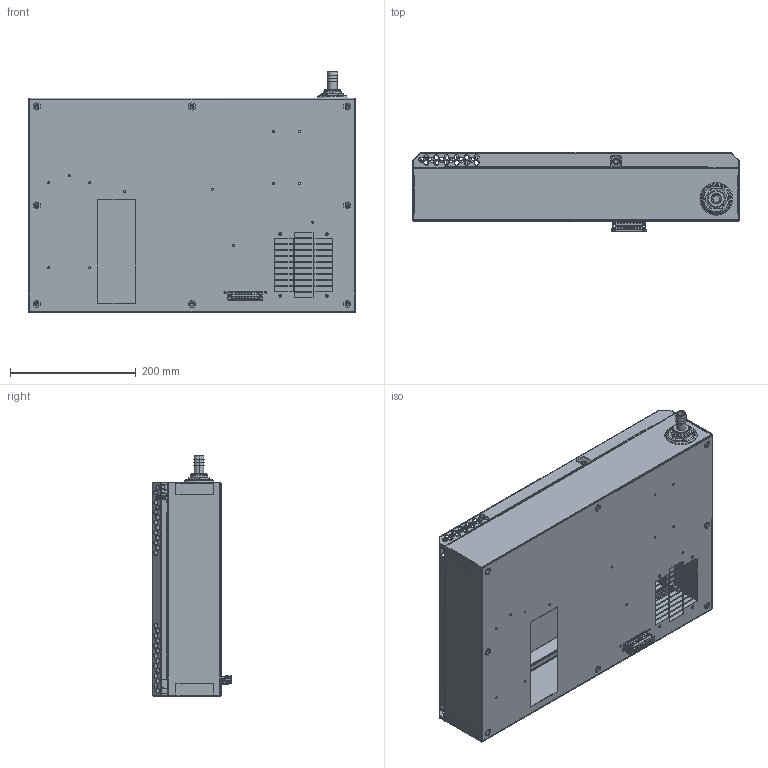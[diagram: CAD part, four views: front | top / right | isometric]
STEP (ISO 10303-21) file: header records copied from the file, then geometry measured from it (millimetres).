
FILE_DESCRIPTION((''),'2;1');
FILE_NAME('KG4267R_COMPLETE_ASS_ASM_ASM_ASM','2013-05-10T',('carlc'),(''),'PRO/ENGINEER BY PARAMETRIC TECHNOLOGY CORPORATION, 2010040','PRO/ENGINEER BY PARAMETRIC TECHNOLOGY CORPORATION, 2010040','');
FILE_SCHEMA(('CONFIG_CONTROL_DESIGN'));
Products named in the file (14): KG4267R_CABINET_1; POPNUT_M6_HEX_CLOSED_1; SCREW_DIN_7985-M4X30_Z_PL_1; DRAIN_BUSH_1; DRAIN_BUSH_PIPE_FITTING_1; DRAIN_BUSH_NUT_1; KG4267R_CABINET_ASS_ASM_1_ASM_ASM; KG4267RA_COVER_1; KG4267R_COVER_ASS_ASM_1_ASM_ASM; 072106080019_1; 072101080037_1; KG4267R_PWRSUP_CONBRKT_ASS_ASM__ASM; DRAIN_FITTING_BRBD_BRBD_2_1; KG4267R_COMPLETE_ASS_ASM_ASM_ASM
Assembly tree (25 placements, depth 3):
  KG4267R_COMPLETE_ASS_ASM_ASM_ASM
    KG4267R_CABINET_ASS_ASM_1_ASM_ASM
      KG4267R_CABINET_1
      POPNUT_M6_HEX_CLOSED_1  x12
      SCREW_DIN_7985-M4X30_Z_PL_1
      DRAIN_BUSH_1
      DRAIN_BUSH_PIPE_FITTING_1
      DRAIN_BUSH_NUT_1
    KG4267R_COVER_ASS_ASM_1_ASM_ASM  x2
      KG4267RA_COVER_1
    KG4267R_PWRSUP_CONBRKT_ASS_ASM__ASM
      072106080019_1
      072101080037_1
    DRAIN_FITTING_BRBD_BRBD_2_1
Bounding box: 520 x 126.7 x 382 mm (x, y, z)
Volume: 641670.9 mm3; surface area: 1546935.3 mm2
Topology: 22 solids, 34 shells, 4267 faces, 11789 edges, 7674 vertices
Faces by surface type: cylinder 2285, plane 1734, cone 142, torus 52, bspline 50, sphere 2, extrusion 2
Entity records: 96747 total; most frequent: CARTESIAN_POINT 19945, DIRECTION 16107, ORIENTED_EDGE 15580, EDGE_CURVE 7792, AXIS2_PLACEMENT_3D 5646, VERTEX_POINT 5081, VECTOR 4815, LINE 4813
